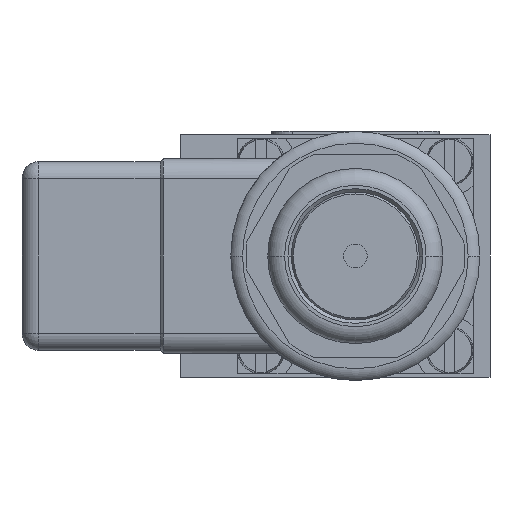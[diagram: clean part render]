
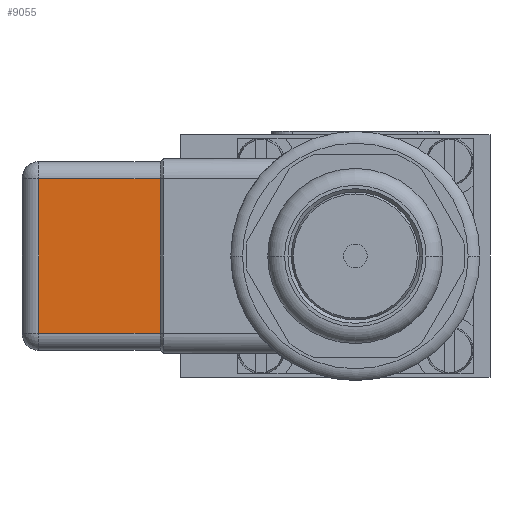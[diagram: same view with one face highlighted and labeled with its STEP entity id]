
A CAD part, left-side view. The second image highlights one B-rep face of the part: STEP entity #9055.
In plain terms, the highlighted planar face has unit normal (-1, 0, 0) as drawn and (1, 0, 0) by its records, which use the part's own axes.
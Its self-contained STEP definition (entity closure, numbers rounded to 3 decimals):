
#7908=DIRECTION('',(0.,0.,-1.));
#7909=VECTOR('',#7908,23.);
#7910=CARTESIAN_POINT('',(31.5,47.,11.5));
#7911=LINE('',#7910,#7909);
#7915=DIRECTION('',(0.,1.,0.));
#7916=VECTOR('',#7915,18.);
#7917=CARTESIAN_POINT('',(31.5,29.,11.5));
#7918=LINE('',#7917,#7916);
#8042=DIRECTION('',(0.,0.,-1.));
#8043=VECTOR('',#8042,23.);
#8044=CARTESIAN_POINT('',(31.5,29.,11.5));
#8045=LINE('',#8044,#8043);
#8115=DIRECTION('',(0.,1.,0.));
#8116=VECTOR('',#8115,18.);
#8117=CARTESIAN_POINT('',(31.5,29.,-11.5));
#8118=LINE('',#8117,#8116);
#9004=CARTESIAN_POINT('',(31.5,29.,11.5));
#9005=CARTESIAN_POINT('',(31.5,29.,-11.5));
#9006=VERTEX_POINT('',#9004);
#9007=VERTEX_POINT('',#9005);
#9036=CARTESIAN_POINT('',(31.5,47.,11.5));
#9037=CARTESIAN_POINT('',(31.5,47.,-11.5));
#9038=VERTEX_POINT('',#9036);
#9039=VERTEX_POINT('',#9037);
#9040=CARTESIAN_POINT('',(31.5,29.,11.5));
#9041=DIRECTION('',(1.,0.,0.));
#9042=DIRECTION('',(0.,0.,-1.));
#9043=AXIS2_PLACEMENT_3D('',#9040,#9041,#9042);
#9044=PLANE('',#9043);
#9046=ORIENTED_EDGE('',*,*,#9045,.T.);
#9048=ORIENTED_EDGE('',*,*,#9047,.F.);
#9050=ORIENTED_EDGE('',*,*,#9049,.F.);
#9052=ORIENTED_EDGE('',*,*,#9051,.T.);
#9053=EDGE_LOOP('',(#9046,#9048,#9050,#9052));
#9054=FACE_OUTER_BOUND('',#9053,.F.);
#9045=EDGE_CURVE('',#9038,#9039,#7911,.T.);
#9047=EDGE_CURVE('',#9007,#9039,#8118,.T.);
#9049=EDGE_CURVE('',#9006,#9007,#8045,.T.);
#9051=EDGE_CURVE('',#9006,#9038,#7918,.T.);
#9055=ADVANCED_FACE('',(#9054),#9044,.T.);
